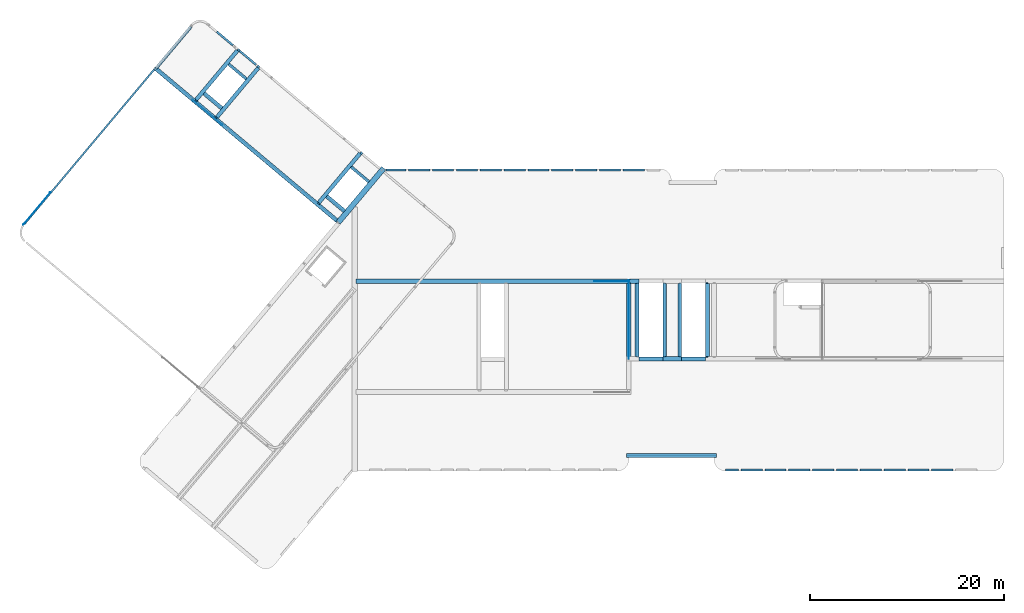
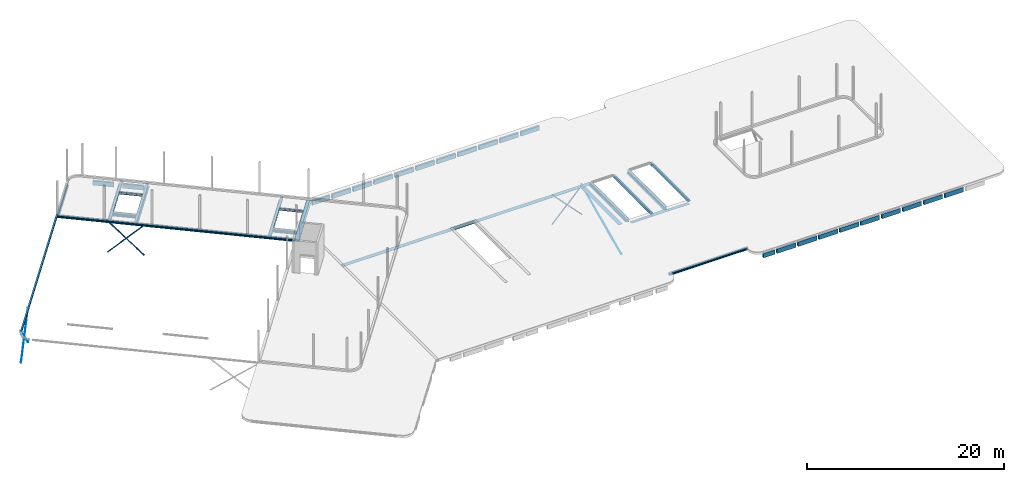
# One storey, part 7 of 11: 66 beams.
"""IFC2X3 building model written with IfcOpenShell, lengths in millimetres."""

from ifc_helpers import new_model, entity, si_unit, converted_unit, derived_unit, direction, frame, frame_2d, origin, place, context, subcontext, project, spatial, rectangle, i_section, extrude, material, type_object, element, save


model = new_model("IFC2X3")

# Units and contexts
model_context = context("Model", 3, precision=0.01, world=origin(), true_north=direction((6.123031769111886e-17, 1.0)))
body_context = subcontext(model_context, "Body", "Model", "MODEL_VIEW")
ifc_project = project(units=[si_unit("LENGTHUNIT", "METRE", prefix="MILLI"), si_unit("AREAUNIT", "SQUARE_METRE"), si_unit("VOLUMEUNIT", "CUBIC_METRE"), derived_unit("MASSDENSITYUNIT", [(si_unit("MASSUNIT", "GRAM", prefix="KILO"), 1), (si_unit("LENGTHUNIT", "METRE"), -3)]), si_unit("MASSUNIT", "GRAM", prefix="KILO"), converted_unit("PLANEANGLEUNIT", "DEGREE", entity("IfcPlaneAngleMeasure", 0.017453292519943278), si_unit("PLANEANGLEUNIT", "RADIAN"), dimensions=[0, 0, 0, 0, 0, 0, 0])], contexts=[model_context])

# Site, building, storey
site_placement = place(None, origin())
site = spatial("IfcSite", under=ifc_project, at=site_placement, Name="Default", CompositionType="ELEMENT")
building_placement = place(site_placement, origin())
building = spatial("IfcBuilding", under=site, at=building_placement, Name="AT constructie", CompositionType="ELEMENT")
storey_placement = place(building_placement, frame((0.0, 0.0, 7728.0)))
storey = spatial("IfcBuildingStorey", under=building, at=storey_placement, Name="02 tweede verdieping", CompositionType="ELEMENT", Elevation=7728.0)

# Beams
ifc_material_1 = material(Name="f2_beton_prefab_gen")
beam_type_1 = type_object("IfcBeamType", Name="balk vierkant_gen_214x544 pbl", PredefinedType="NOTDEFINED")
beam_1_placement = place(storey_placement, frame((49381.874631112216, 42871.04350852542, 0.0)))
element("IfcBeam", 1, at=beam_1_placement, inside=storey, type_object=beam_type_1, material=ifc_material_1, Name="NLRS_28_SF_LIB_balk vierkant prefab_gen_AT:balk vierkant_gen_214x544 pbl", ObjectType="NLRS_28_SF_LIB_balk vierkant prefab_gen_AT:balk vierkant_gen_214x544 pbl", context=body_context, shape_type="SweptSolid", body=[
    extrude(rectangle(XDim=544.0000000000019, YDim=213.99999999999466, at=frame_2d((0.0, 4.334310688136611e-12), x_axis=(1.0, 0.0))), frame((-190.0, -107.0, -642.0), z_axis=(1.0, 0.0, 0.0), x_axis=(0.0, 0.0, -1.0)), (0.0, 0.0, 1.0), 2190.0000000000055),
])
beam_2_placement = place(storey_placement, frame((46921.87463111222, 42871.04350852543, 0.0)))
element("IfcBeam", 2, at=beam_2_placement, inside=storey, type_object=beam_type_1, material=ifc_material_1, Name="NLRS_28_SF_LIB_balk vierkant prefab_gen_AT:balk vierkant_gen_214x544 pbl", ObjectType="NLRS_28_SF_LIB_balk vierkant prefab_gen_AT:balk vierkant_gen_214x544 pbl", context=body_context, shape_type="SweptSolid", body=[
    extrude(rectangle(XDim=544.0000000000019, YDim=213.99999999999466, at=frame_2d((0.0, -4.334310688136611e-12), x_axis=(1.0, 0.0))), frame((-190.0, -107.0, -642.0), z_axis=(1.0, 0.0, 0.0), x_axis=(0.0, 0.0, -1.0)), (0.0, 0.0, 1.0), 2190.0000000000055),
])
for number, where in (
    (3, (51841.87463111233, 42871.043508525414, 0.0)),
    (4, (54301.87463111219, 42871.04350852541, 0.0)),
):
    element("IfcBeam", number, at=place(storey_placement, frame(where)), inside=storey, type_object=beam_type_1, material=ifc_material_1, Name="NLRS_28_SF_LIB_balk vierkant prefab_gen_AT:balk vierkant_gen_214x544 pbl", ObjectType="NLRS_28_SF_LIB_balk vierkant prefab_gen_AT:balk vierkant_gen_214x544 pbl", context=body_context, shape_type="SweptSolid", body=[
        extrude(rectangle(XDim=544.0000000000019, YDim=213.99999999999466, at=frame_2d((0.0, 4.334310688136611e-12), x_axis=(1.0, 0.0))), frame((-190.0, -107.0, -642.0), z_axis=(1.0, 0.0, 0.0), x_axis=(0.0, 0.0, -1.0)), (0.0, 0.0, 1.0), 2190.0000000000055),
    ])
beam_3_placement = place(storey_placement, frame((56761.87463111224, 42871.0435085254, 0.0)))
element("IfcBeam", 5, at=beam_3_placement, inside=storey, type_object=beam_type_1, material=ifc_material_1, Name="NLRS_28_SF_LIB_balk vierkant prefab_gen_AT:balk vierkant_gen_214x544 pbl", ObjectType="NLRS_28_SF_LIB_balk vierkant prefab_gen_AT:balk vierkant_gen_214x544 pbl", context=body_context, shape_type="SweptSolid", body=[
    extrude(rectangle(XDim=544.0000000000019, YDim=213.99999999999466, at=frame_2d((0.0, -4.334310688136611e-12), x_axis=(1.0, 0.0))), frame((-190.0, -107.0, -642.0), z_axis=(1.0, 0.0, 0.0), x_axis=(0.0, 0.0, -1.0)), (0.0, 0.0, 1.0), 2190.0000000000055),
])
for number, where in (
    (6, (59221.87463111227, 42871.043508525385, 0.0)),
    (7, (61681.874631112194, 42871.04350852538, 0.0)),
):
    element("IfcBeam", number, at=place(storey_placement, frame(where)), inside=storey, type_object=beam_type_1, material=ifc_material_1, Name="NLRS_28_SF_LIB_balk vierkant prefab_gen_AT:balk vierkant_gen_214x544 pbl", ObjectType="NLRS_28_SF_LIB_balk vierkant prefab_gen_AT:balk vierkant_gen_214x544 pbl", context=body_context, shape_type="SweptSolid", body=[
        extrude(rectangle(XDim=544.0000000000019, YDim=213.99999999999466, at=frame_2d((0.0, 4.334310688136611e-12), x_axis=(1.0, 0.0))), frame((-190.0, -107.0, -642.0), z_axis=(1.0, 0.0, 0.0), x_axis=(0.0, 0.0, -1.0)), (0.0, 0.0, 1.0), 2190.0000000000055),
    ])
beam_4_placement = place(storey_placement, frame((44110.05054228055, 42871.043508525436, 0.0)))
element("IfcBeam", 8, at=beam_4_placement, inside=storey, type_object=beam_type_1, material=ifc_material_1, Name="NLRS_28_SF_LIB_balk vierkant prefab_gen_AT:balk vierkant_gen_214x544 pbl", ObjectType="NLRS_28_SF_LIB_balk vierkant prefab_gen_AT:balk vierkant_gen_214x544 pbl", context=body_context, shape_type="SweptSolid", body=[
    extrude(rectangle(XDim=544.0000000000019, YDim=213.99999999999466, at=frame_2d((0.0, -4.334310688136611e-12), x_axis=(1.0, 0.0))), frame((280.69924574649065, -107.0, -642.0), z_axis=(1.0, 0.0, 0.0), x_axis=(0.0, 0.0, -1.0)), (0.0, 0.0, 1.0), 2071.124843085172),
])
beam_5_placement = place(storey_placement, frame((64141.8746311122, 42871.04350852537, 0.0)))
element("IfcBeam", 9, at=beam_5_placement, inside=storey, type_object=beam_type_1, material=ifc_material_1, Name="NLRS_28_SF_LIB_balk vierkant prefab_gen_AT:balk vierkant_gen_214x544 pbl", ObjectType="NLRS_28_SF_LIB_balk vierkant prefab_gen_AT:balk vierkant_gen_214x544 pbl", context=body_context, shape_type="SweptSolid", body=[
    extrude(rectangle(XDim=544.0000000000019, YDim=213.99999999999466, at=frame_2d((0.0, 4.334310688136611e-12), x_axis=(1.0, 0.0))), frame((-190.0, -107.0, -642.0), z_axis=(1.0, 0.0, 0.0), x_axis=(0.0, 0.0, -1.0)), (0.0, 0.0, 1.0), 2190.0000000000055),
])
beam_6_placement = place(storey_placement, frame((66601.87463111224, 42871.04350852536, 0.0)))
element("IfcBeam", 10, at=beam_6_placement, inside=storey, type_object=beam_type_1, material=ifc_material_1, Name="NLRS_28_SF_LIB_balk vierkant prefab_gen_AT:balk vierkant_gen_214x544 pbl", ObjectType="NLRS_28_SF_LIB_balk vierkant prefab_gen_AT:balk vierkant_gen_214x544 pbl", context=body_context, shape_type="SweptSolid", body=[
    extrude(rectangle(XDim=544.0000000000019, YDim=213.99999999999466, at=frame_2d((0.0, -4.334310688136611e-12), x_axis=(1.0, 0.0))), frame((-190.0, -107.0, -642.0), z_axis=(1.0, 0.0, 0.0), x_axis=(0.0, 0.0, -1.0)), (0.0, 0.0, 1.0), 2190.0000000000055),
])
beam_7_placement = place(storey_placement, frame((69061.87463111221, 42871.043508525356, 0.0)))
element("IfcBeam", 11, at=beam_7_placement, inside=storey, type_object=beam_type_1, material=ifc_material_1, Name="NLRS_28_SF_LIB_balk vierkant prefab_gen_AT:balk vierkant_gen_214x544 pbl", ObjectType="NLRS_28_SF_LIB_balk vierkant prefab_gen_AT:balk vierkant_gen_214x544 pbl", context=body_context, shape_type="SweptSolid", body=[
    extrude(rectangle(XDim=544.0000000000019, YDim=213.99999999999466, at=frame_2d((0.0, 4.334310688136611e-12), x_axis=(1.0, 0.0))), frame((-190.0, -107.0, -642.0), z_axis=(1.0, 0.0, 0.0), x_axis=(0.0, 0.0, -1.0)), (0.0, 0.0, 1.0), 2190.0000000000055),
])
beam_8_placement = place(storey_placement, frame((29514.597322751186, 54981.162075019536, 0.0), z_axis=(0.0, 0.0, 1.0), x_axis=(0.7660444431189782, -0.6427876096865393, 0.0)))
element("IfcBeam", 12, at=beam_8_placement, inside=storey, type_object=beam_type_1, material=ifc_material_1, Name="NLRS_28_SF_LIB_balk vierkant prefab_gen_AT:balk vierkant_gen_214x544 pbl", ObjectType="NLRS_28_SF_LIB_balk vierkant prefab_gen_AT:balk vierkant_gen_214x544 pbl", context=body_context, shape_type="SweptSolid", body=[
    extrude(rectangle(XDim=544.0000000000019, YDim=213.9999999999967, at=frame_2d((0.0, 4.710898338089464e-12), x_axis=(1.0, 0.0))), frame((-190.0, -107.0, -642.0), z_axis=(1.0, 0.0, 0.0), x_axis=(0.0, 0.0, -1.0)), (0.0, 0.0, 1.0), 2190.000000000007),
])
for number, where in (
    (13, (83681.87463111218, 11671.043508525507, 0.0)),
    (14, (81221.87463111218, 11671.043508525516, 0.0)),
    (15, (86141.8746311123, 11671.043508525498, 0.0)),
    (16, (88601.87463111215, 11671.043508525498, 0.0)),
    (17, (91061.8746311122, 11671.043508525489, 0.0)),
    (18, (93521.87463111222, 11671.043508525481, 0.0)),
    (19, (95981.87463111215, 11671.043508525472, 0.0)),
    (20, (98441.87463111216, 11671.043508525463, 0.0)),
    (21, (100901.8746311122, 11671.043508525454, 0.0)),
):
    element("IfcBeam", number, at=place(storey_placement, frame(where)), inside=storey, type_object=beam_type_1, material=ifc_material_1, Name="NLRS_28_SF_LIB_balk vierkant prefab_gen_AT:balk vierkant_gen_214x544 pbl", ObjectType="NLRS_28_SF_LIB_balk vierkant prefab_gen_AT:balk vierkant_gen_214x544 pbl", context=body_context, shape_type="SweptSolid", body=[
        extrude(rectangle(XDim=544.0000000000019, YDim=213.999999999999, at=frame_2d((0.0, -1.0871303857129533e-12), x_axis=(1.0, 0.0))), frame((-190.0, 107.0, -642.0), z_axis=(1.0, 0.0, 0.0), x_axis=(0.0, 0.0, -1.0)), (0.0, 0.0, 1.0), 2190.000000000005),
    ])
beam_9_placement = place(storey_placement, frame((79641.87463111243, 11671.043508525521, 0.0)))
element("IfcBeam", 22, at=beam_9_placement, inside=storey, type_object=beam_type_1, material=ifc_material_1, Name="NLRS_28_SF_LIB_balk vierkant prefab_gen_AT:balk vierkant_gen_214x544 pbl", ObjectType="NLRS_28_SF_LIB_balk vierkant prefab_gen_AT:balk vierkant_gen_214x544 pbl", context=body_context, shape_type="SweptSolid", body=[
    extrude(rectangle(XDim=544.0000000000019, YDim=213.999999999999, at=frame_2d((0.0, -1.0871303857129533e-12), x_axis=(1.0, 0.0))), frame((-190.0, 107.0, -642.0), z_axis=(1.0, 0.0, 0.0), x_axis=(0.0, 0.0, -1.0)), (0.0, 0.0, 1.0), 1309.9999999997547),
])
beam_10_placement = place(storey_placement, frame((27139.859549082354, 56973.80366504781, 0.0), z_axis=(0.0, 0.0, 1.0), x_axis=(0.7660444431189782, -0.6427876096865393, 0.0)))
element("IfcBeam", 23, at=beam_10_placement, inside=storey, type_object=beam_type_1, material=ifc_material_1, Name="NLRS_28_SF_LIB_balk vierkant prefab_gen_AT:balk vierkant_gen_214x544 pbl", ObjectType="NLRS_28_SF_LIB_balk vierkant prefab_gen_AT:balk vierkant_gen_214x544 pbl", context=body_context, shape_type="SweptSolid", body=[
    extrude(rectangle(XDim=544.0000000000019, YDim=213.9999999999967, at=frame_2d((0.0, -4.710898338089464e-12), x_axis=(1.0, 0.0))), frame((-190.0, -107.0, -642.0), z_axis=(1.0, 0.0, 0.0), x_axis=(0.0, 0.0, -1.0)), (0.0, 0.0, 1.0), 2190.000000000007),
])
ifc_material_2 = material(Name="h2_staal_S355")
beam_type_2 = type_object("IfcBeamType", Name="balk strip liggend_gen_500x15", PredefinedType="NOTDEFINED")
beam_11_placement = place(storey_placement, frame((69446.87463111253, 31021.043508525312, 0.0), z_axis=(0.0, 0.0, 1.0), x_axis=(0.0, -1.0, 0.0)))
element("IfcBeam", 24, at=beam_11_placement, inside=storey, type_object=beam_type_2, material=ifc_material_2, Name="NLRS_28_SF_LIB_balk strip_gen_AT:balk strip liggend_gen_500x15", ObjectType="NLRS_28_SF_LIB_balk strip_gen_AT:balk strip liggend_gen_500x15", context=body_context, shape_type="SweptSolid", body=[
    extrude(rectangle(XDim=14.99999999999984, YDim=499.999999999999, at=frame_2d((5.413447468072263e-13, 4.334310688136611e-12), x_axis=(1.0, 0.0))), frame((0.0, 0.0, -377.5000000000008), z_axis=(1.0, 0.0, 0.0), x_axis=(0.0, 0.0, -1.0)), (0.0, 0.0, 1.0), 7599.999999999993),
])
beam_12_placement = place(storey_placement, frame((41296.874631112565, 31271.043508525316, 0.0)))
element("IfcBeam", 25, at=beam_12_placement, inside=storey, type_object=beam_type_2, material=ifc_material_2, Name="NLRS_28_SF_LIB_balk strip_gen_AT:balk strip liggend_gen_500x15", ObjectType="NLRS_28_SF_LIB_balk strip_gen_AT:balk strip liggend_gen_500x15", context=body_context, shape_type="SweptSolid", body=[
    extrude(rectangle(XDim=14.99999999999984, YDim=499.999999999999, at=frame_2d((5.413447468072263e-13, 4.334310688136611e-12), x_axis=(1.0, 0.0))), frame((0.0, 0.0, -377.5000000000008), z_axis=(1.0, 0.0, 0.0), x_axis=(0.0, 0.0, -1.0)), (0.0, 0.0, 1.0), 28299.99999999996),
])
beam_13_placement = place(storey_placement, frame((69596.87463111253, 31271.043508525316, 0.0)))
element("IfcBeam", 26, at=beam_13_placement, inside=storey, type_object=beam_type_2, material=ifc_material_2, Name="NLRS_28_SF_LIB_balk strip_gen_AT:balk strip liggend_gen_500x15", ObjectType="NLRS_28_SF_LIB_balk strip_gen_AT:balk strip liggend_gen_500x15", context=body_context, shape_type="SweptSolid", body=[
    extrude(rectangle(XDim=14.99999999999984, YDim=499.999999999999, at=frame_2d((5.413447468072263e-13, 4.334310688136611e-12), x_axis=(1.0, 0.0))), frame((0.0, 0.0, -377.5000000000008), z_axis=(1.0, 0.0, 0.0), x_axis=(0.0, 0.0, -1.0)), (0.0, 0.0, 1.0), 905.0000000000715),
])
beam_14_placement = place(storey_placement, frame((72951.87463111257, 23271.04350852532, 0.0)))
element("IfcBeam", 27, at=beam_14_placement, inside=storey, type_object=beam_type_2, material=ifc_material_2, Name="NLRS_28_SF_LIB_balk strip_gen_AT:balk strip liggend_gen_500x15", ObjectType="NLRS_28_SF_LIB_balk strip_gen_AT:balk strip liggend_gen_500x15", context=body_context, shape_type="SweptSolid", body=[
    extrude(rectangle(XDim=14.99999999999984, YDim=499.999999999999, at=frame_2d((5.413447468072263e-13, 0.0), x_axis=(1.0, 0.0))), frame((0.0, 0.0, -377.5000000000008), z_axis=(1.0, 0.0, 0.0), x_axis=(0.0, 0.0, -1.0)), (0.0, 0.0, 1.0), 1949.9999993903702),
])
beam_type_3 = type_object("IfcBeamType", Name="balk HE_gen_HEB260", PredefinedType="NOTDEFINED")
beam_15_placement = place(storey_placement, frame((69220.37462610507, 13201.043508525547, 0.0)))
element("IfcBeam", 28, at=beam_15_placement, inside=storey, type_object=beam_type_3, material=ifc_material_2, Name="NLRS_28_SF_LIB_balk HEB_gen_AT:balk HE_gen_HEB260", ObjectType="NLRS_28_SF_LIB_balk HEB_gen_AT:balk HE_gen_HEB260", context=body_context, shape_type="SweptSolid", body=[
    extrude(i_section(OverallWidth=259.9999999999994, OverallDepth=260.00000000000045, WebThickness=9.999999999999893, FlangeThickness=17.50000000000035, FilletRadius=24.000000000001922, at=frame_2d((5.400124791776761e-13, 1.0800249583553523e-12), x_axis=(0.0, 1.0))), frame((0.0, 0.0, -240.0), z_axis=(1.0, 0.0, 0.0), x_axis=(0.0, 0.0, -1.0)), (0.0, 0.0, 1.0), 9253.000006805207),
])
for number, where, z_axis, x_axis in (
    (29, (77481.87463111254, 31141.043508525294, 0.0), (0.0, 0.0, 1.0), (0.0, -1.0, 0.0)),
    (30, (73081.87463111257, 31141.04350852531, 0.0), (0.0, 0.0, 1.0), (0.0, -1.0, 0.0)),
    (31, (74771.87463111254, 31141.043508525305, 0.0), (0.0, 0.0, 1.0), (0.0, -1.0, 0.0)),
    (32, (70371.87463111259, 31141.043508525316, 0.0), (0.0, 0.0, 1.0), (0.0, -1.0, 0.0)),
):
    element("IfcBeam", number, at=place(storey_placement, frame(where, z_axis=z_axis, x_axis=x_axis)), inside=storey, type_object=beam_type_3, material=ifc_material_2, Name="NLRS_28_SF_LIB_balk HEB_gen_AT:balk HE_gen_HEB260", ObjectType="NLRS_28_SF_LIB_balk HEB_gen_AT:balk HE_gen_HEB260", context=body_context, shape_type="SweptSolid", body=[
        extrude(i_section(OverallWidth=259.9999999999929, OverallDepth=260.00000000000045, WebThickness=9.999999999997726, FlangeThickness=17.50000000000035, FilletRadius=24.0, at=frame_2d((5.400124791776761e-13, 8.65441052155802e-12), x_axis=(0.0, 1.0))), frame((0.0, 0.0, -240.0), z_axis=(1.0, 0.0, 0.0), x_axis=(0.0, 0.0, -1.0)), (0.0, 0.0, 1.0), 7739.999999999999),
    ])
beam_16_placement = place(storey_placement, frame((20474.44183367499, 53265.72627519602, 0.0), z_axis=(0.0, 0.0, 1.0), x_axis=(0.7660444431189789, -0.6427876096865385, 0.0)))
element("IfcBeam", 33, at=beam_16_placement, inside=storey, type_object=beam_type_3, material=ifc_material_2, Name="NLRS_28_SF_LIB_balk HEB_gen_AT:balk HE_gen_HEB260", ObjectType="NLRS_28_SF_LIB_balk HEB_gen_AT:balk HE_gen_HEB260", context=body_context, shape_type="SweptSolid", body=[
    extrude(i_section(OverallWidth=259.9999999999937, OverallDepth=260.00000000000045, WebThickness=10.000000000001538, FlangeThickness=17.50000000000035, FilletRadius=24.0, at=frame_2d((5.400124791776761e-13, 0.0), x_axis=(0.0, 1.0))), frame((0.0, 0.0, -240.0), z_axis=(1.0, 0.0, 0.0), x_axis=(0.0, 0.0, -1.0)), (0.0, 0.0, 1.0), 24637.499999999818),
])
beam_17_placement = place(storey_placement, frame((29353.72812201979, 55116.14736202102, 0.0), z_axis=(0.0, 0.0, 1.0), x_axis=(-0.6427876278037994, -0.7660444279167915, 0.0)))
element("IfcBeam", 34, at=beam_17_placement, inside=storey, type_object=beam_type_3, material=ifc_material_2, Name="NLRS_28_SF_LIB_balk HEB_gen_AT:balk HE_gen_HEB260", ObjectType="NLRS_28_SF_LIB_balk HEB_gen_AT:balk HE_gen_HEB260", context=body_context, shape_type="SweptSolid", body=[
    extrude(i_section(OverallWidth=260.00000000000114, OverallDepth=260.00000000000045, WebThickness=9.999999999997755, FlangeThickness=17.50000000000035, FilletRadius=24.0, at=frame_2d((5.400124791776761e-13, 7.773337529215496e-12), x_axis=(0.0, 1.0))), frame((0.0, -130.0, -240.0), z_axis=(1.0, 0.0, 0.0), x_axis=(0.0, 0.0, -1.0)), (0.0, 0.0, 1.0), 6975.000000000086),
])
beam_18_placement = place(storey_placement, frame((31192.23475400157, 53573.457125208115, 0.0), z_axis=(0.0, 0.0, 1.0), x_axis=(-0.6427876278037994, -0.7660444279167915, 0.0)))
element("IfcBeam", 35, at=beam_18_placement, inside=storey, type_object=beam_type_3, material=ifc_material_2, Name="NLRS_28_SF_LIB_balk HEB_gen_AT:balk HE_gen_HEB260", ObjectType="NLRS_28_SF_LIB_balk HEB_gen_AT:balk HE_gen_HEB260", context=body_context, shape_type="SweptSolid", body=[
    extrude(i_section(OverallWidth=260.00000000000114, OverallDepth=260.00000000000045, WebThickness=9.999999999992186, FlangeThickness=17.50000000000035, FilletRadius=24.0, at=frame_2d((5.400124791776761e-13, 1.3869794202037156e-11), x_axis=(0.0, 1.0))), frame((0.0, 130.0, -240.0), z_axis=(1.0, 0.0, 0.0), x_axis=(0.0, 0.0, -1.0)), (0.0, 0.0, 1.0), 6975.000000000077),
])
beam_19_placement = place(storey_placement, frame((25738.04773364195, 50807.14734400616, 0.0), z_axis=(0.0, 0.0, 1.0), x_axis=(0.766044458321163, -0.6427875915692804, 0.0)))
element("IfcBeam", 36, at=beam_19_placement, inside=storey, type_object=beam_type_3, material=ifc_material_2, Name="NLRS_28_SF_LIB_balk HEB_gen_AT:balk HE_gen_HEB260", ObjectType="NLRS_28_SF_LIB_balk HEB_gen_AT:balk HE_gen_HEB260", context=body_context, shape_type="SweptSolid", body=[
    extrude(i_section(OverallWidth=259.9999999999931, OverallDepth=260.00000000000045, WebThickness=10.000000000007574, FlangeThickness=17.50000000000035, FilletRadius=24.0, at=frame_2d((-9.421796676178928e-12, 1.6200374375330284e-12), x_axis=(1.0, 0.0))), frame((0.0, -130.0, -240.0), z_axis=(1.0, 0.0, 0.0), x_axis=(0.0, -1.0, 0.0)), (0.0, 0.0, 1.0), 2399.999958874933),
])
beam_20_placement = place(storey_placement, frame((42012.612227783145, 44494.08186757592, 0.0), z_axis=(0.0, 0.0, 1.0), x_axis=(-0.6427876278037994, -0.7660444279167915, 0.0)))
element("IfcBeam", 37, at=beam_20_placement, inside=storey, type_object=beam_type_3, material=ifc_material_2, Name="NLRS_28_SF_LIB_balk HEB_gen_AT:balk HE_gen_HEB260", ObjectType="NLRS_28_SF_LIB_balk HEB_gen_AT:balk HE_gen_HEB260", context=body_context, shape_type="SweptSolid", body=[
    extrude(i_section(OverallWidth=259.9999999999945, OverallDepth=260.00000000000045, WebThickness=10.000000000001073, FlangeThickness=17.50000000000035, FilletRadius=24.0, at=frame_2d((5.400124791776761e-13, -3.325340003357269e-12), x_axis=(0.0, 1.0))), frame((0.0, -130.0, -240.0), z_axis=(1.0, 0.0, 0.0), x_axis=(0.0, 0.0, -1.0)), (0.0, 0.0, 1.0), 6975.000000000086),
])
beam_21_placement = place(storey_placement, frame((38393.101682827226, 40188.29573268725, 0.0), z_axis=(0.0, 0.0, 1.0), x_axis=(0.766044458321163, -0.6427875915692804, 0.0)))
element("IfcBeam", 38, at=beam_21_placement, inside=storey, type_object=beam_type_3, material=ifc_material_2, Name="NLRS_28_SF_LIB_balk HEB_gen_AT:balk HE_gen_HEB260", ObjectType="NLRS_28_SF_LIB_balk HEB_gen_AT:balk HE_gen_HEB260", context=body_context, shape_type="SweptSolid", body=[
    extrude(i_section(OverallWidth=259.9999999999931, OverallDepth=260.00000000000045, WebThickness=10.000000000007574, FlangeThickness=17.50000000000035, FilletRadius=24.0, at=frame_2d((2.7853275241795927e-12, 1.6200374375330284e-12), x_axis=(1.0, 0.0))), frame((0.0, -130.0, -240.0), z_axis=(1.0, 0.0, 0.0), x_axis=(0.0, -1.0, 0.0)), (0.0, 0.0, 1.0), 2399.999958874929),
])
beam_type_4 = type_object("IfcBeamType", Name="balk strip liggend_gen_420x15", PredefinedType="NOTDEFINED")
beam_22_placement = place(storey_placement, frame((20513.009090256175, 53311.688941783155, 0.0), z_axis=(0.0, 0.0, 1.0), x_axis=(0.7660444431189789, -0.6427876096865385, 0.0)))
element("IfcBeam", 39, at=beam_22_placement, inside=storey, type_object=beam_type_4, material=ifc_material_2, Name="NLRS_28_SF_LIB_balk strip_gen_AT:balk strip liggend_gen_420x15", ObjectType="NLRS_28_SF_LIB_balk strip_gen_AT:balk strip liggend_gen_420x15", context=body_context, shape_type="SweptSolid", body=[
    extrude(rectangle(XDim=14.99999999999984, YDim=420.00000000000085, at=frame_2d((-5.413447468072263e-13, 0.0), x_axis=(1.0, 0.0))), frame((0.0, 0.0, -377.5000000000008), z_axis=(1.0, 0.0, 0.0), x_axis=(0.0, 0.0, 1.0)), (0.0, 0.0, 1.0), 24517.499999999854),
])
beam_type_5 = type_object("IfcBeamType", Name="balk strip liggend_gen_400x15", PredefinedType="NOTDEFINED")
beam_23_placement = place(storey_placement, frame((69220.37462109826, 13271.043508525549, 0.0)))
element("IfcBeam", 40, at=beam_23_placement, inside=storey, type_object=beam_type_5, material=ifc_material_2, Name="NLRS_28_SF_LIB_balk strip_gen_AT:balk strip liggend_gen_400x15", ObjectType="NLRS_28_SF_LIB_balk strip_gen_AT:balk strip liggend_gen_400x15", context=body_context, shape_type="SweptSolid", body=[
    extrude(rectangle(XDim=14.99999999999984, YDim=400.0, at=frame_2d((5.413447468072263e-13, 0.0), x_axis=(1.0, 0.0))), frame((0.0, 0.0, -377.5000000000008), z_axis=(1.0, 0.0, 0.0), x_axis=(0.0, 0.0, -1.0)), (0.0, 0.0, 1.0), 9253.000011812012),
])
for number, where, z_axis, x_axis in (
    (41, (77551.87463111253, 31021.043508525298, 0.0), (0.0, 0.0, 1.0), (0.0, -1.0, 0.0)),
    (42, (73151.87463111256, 31021.04350852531, 0.0), (0.0, 0.0, 1.0), (0.0, -1.0, 0.0)),
):
    element("IfcBeam", number, at=place(storey_placement, frame(where, z_axis=z_axis, x_axis=x_axis)), inside=storey, type_object=beam_type_5, material=ifc_material_2, Name="NLRS_28_SF_LIB_balk strip_gen_AT:balk strip liggend_gen_400x15", ObjectType="NLRS_28_SF_LIB_balk strip_gen_AT:balk strip liggend_gen_400x15", context=body_context, shape_type="SweptSolid", body=[
        extrude(rectangle(XDim=14.99999999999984, YDim=400.0000000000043, at=frame_2d((5.413447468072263e-13, -4.334310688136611e-12), x_axis=(1.0, 0.0))), frame((0.0, 0.0, -377.5000000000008), z_axis=(1.0, 0.0, 0.0), x_axis=(0.0, 0.0, -1.0)), (0.0, 0.0, 1.0), 7499.999999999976),
    ])
for number, where, z_axis, x_axis in (
    (43, (74701.87463111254, 31021.043508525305, 0.0), (0.0, 0.0, 1.0), (0.0, -1.0, 0.0)),
    (44, (70301.87463111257, 31021.04350852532, 0.0), (0.0, 0.0, 1.0), (0.0, -1.0, 0.0)),
):
    element("IfcBeam", number, at=place(storey_placement, frame(where, z_axis=z_axis, x_axis=x_axis)), inside=storey, type_object=beam_type_5, material=ifc_material_2, Name="NLRS_28_SF_LIB_balk strip_gen_AT:balk strip liggend_gen_400x15", ObjectType="NLRS_28_SF_LIB_balk strip_gen_AT:balk strip liggend_gen_400x15", context=body_context, shape_type="SweptSolid", body=[
        extrude(rectangle(XDim=14.99999999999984, YDim=400.0000000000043, at=frame_2d((5.413447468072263e-13, -1.3002932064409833e-11), x_axis=(1.0, 0.0))), frame((0.0, 0.0, -377.5000000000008), z_axis=(1.0, 0.0, 0.0), x_axis=(0.0, 0.0, -1.0)), (0.0, 0.0, 1.0), 7499.999999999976),
    ])
beam_24_placement = place(storey_placement, frame((29131.740957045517, 55162.738130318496, 0.0), z_axis=(0.0, 0.0, 1.0), x_axis=(-0.6427876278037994, -0.7660444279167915, 0.0)))
element("IfcBeam", 45, at=beam_24_placement, inside=storey, type_object=beam_type_5, material=ifc_material_2, Name="NLRS_28_SF_LIB_balk strip_gen_AT:balk strip liggend_gen_400x15", ObjectType="NLRS_28_SF_LIB_balk strip_gen_AT:balk strip liggend_gen_400x15", context=body_context, shape_type="SweptSolid", body=[
    extrude(rectangle(XDim=14.99999999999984, YDim=400.0000000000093, at=frame_2d((5.413447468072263e-13, -4.447997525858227e-12), x_axis=(1.0, 0.0))), frame((107.00000473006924, 0.0, -377.5000000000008), z_axis=(1.0, 0.0, 0.0), x_axis=(0.0, 0.0, -1.0)), (0.0, 0.0, 1.0), 6640.999995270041),
])
beam_25_placement = place(storey_placement, frame((31123.456477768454, 53491.490371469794, 0.0), z_axis=(0.0, 0.0, 1.0), x_axis=(-0.6427876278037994, -0.7660444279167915, 0.0)))
element("IfcBeam", 46, at=beam_25_placement, inside=storey, type_object=beam_type_5, material=ifc_material_2, Name="NLRS_28_SF_LIB_balk strip_gen_AT:balk strip liggend_gen_400x15", ObjectType="NLRS_28_SF_LIB_balk strip_gen_AT:balk strip liggend_gen_400x15", context=body_context, shape_type="SweptSolid", body=[
    extrude(rectangle(XDim=14.99999999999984, YDim=400.000000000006, at=frame_2d((5.413447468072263e-13, -6.110667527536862e-12), x_axis=(1.0, 0.0))), frame((107.0000047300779, 200.0, -377.5000000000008), z_axis=(1.0, 0.0, 0.0), x_axis=(0.0, 0.0, -1.0)), (0.0, 0.0, 1.0), 6640.999995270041),
])
beam_26_placement = place(storey_placement, frame((25738.047668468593, 50807.14739879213, 0.0), z_axis=(0.0, 0.0, 1.0), x_axis=(0.766044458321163, -0.6427875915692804, 0.0)))
element("IfcBeam", 47, at=beam_26_placement, inside=storey, type_object=beam_type_5, material=ifc_material_2, Name="NLRS_28_SF_LIB_balk strip_gen_AT:balk strip liggend_gen_400x15", ObjectType="NLRS_28_SF_LIB_balk strip_gen_AT:balk strip liggend_gen_400x15", context=body_context, shape_type="SweptSolid", body=[
    extrude(rectangle(XDim=14.99999999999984, YDim=399.99999999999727, at=frame_2d((5.413447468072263e-13, 0.0), x_axis=(1.0, 0.0))), frame((6.096022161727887e-07, -200.0, -377.5000000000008), z_axis=(1.0, 0.0, 0.0), x_axis=(0.0, 0.0, -1.0)), (0.0, 0.0, 1.0), 2400.000043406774),
])
beam_27_placement = place(storey_placement, frame((41790.62531402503, 44540.67293526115, 0.0), z_axis=(0.0, 0.0, 1.0), x_axis=(-0.6427876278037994, -0.7660444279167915, 0.0)))
element("IfcBeam", 48, at=beam_27_placement, inside=storey, type_object=beam_type_5, material=ifc_material_2, Name="NLRS_28_SF_LIB_balk strip_gen_AT:balk strip liggend_gen_400x15", ObjectType="NLRS_28_SF_LIB_balk strip_gen_AT:balk strip liggend_gen_400x15", context=body_context, shape_type="SweptSolid", body=[
    extrude(rectangle(XDim=14.999999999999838, YDim=400.00000000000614, at=frame_2d((5.413447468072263e-13, -6.0822458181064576e-12), x_axis=(1.0, 0.0))), frame((107.00000473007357, 0.0, -377.5000000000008), z_axis=(1.0, 0.0, 0.0), x_axis=(0.0, 0.0, -1.0)), (0.0, 0.0, 1.0), 6641.000386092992),
])
beam_28_placement = place(storey_placement, frame((38396.93177438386, 40185.08190452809, 0.0), z_axis=(0.0, 0.0, 1.0), x_axis=(0.766044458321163, -0.6427875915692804, 0.0)))
element("IfcBeam", 49, at=beam_28_placement, inside=storey, type_object=beam_type_5, material=ifc_material_2, Name="NLRS_28_SF_LIB_balk strip_gen_AT:balk strip liggend_gen_400x15", ObjectType="NLRS_28_SF_LIB_balk strip_gen_AT:balk strip liggend_gen_400x15", context=body_context, shape_type="SweptSolid", body=[
    extrude(rectangle(XDim=14.99999999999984, YDim=399.99999999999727, at=frame_2d((5.413447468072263e-13, -9.450218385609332e-12), x_axis=(1.0, 0.0))), frame((6.095978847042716e-07, -200.0, -377.5000000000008), z_axis=(1.0, 0.0, 0.0), x_axis=(0.0, 0.0, -1.0)), (0.0, 0.0, 1.0), 2395.0001289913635),
])
beam_29_placement = place(storey_placement, frame((70501.87463111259, 23221.043508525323, 0.0)))
element("IfcBeam", 50, at=beam_29_placement, inside=storey, type_object=beam_type_5, material=ifc_material_2, Name="NLRS_28_SF_LIB_balk strip_gen_AT:balk strip liggend_gen_400x15", ObjectType="NLRS_28_SF_LIB_balk strip_gen_AT:balk strip liggend_gen_400x15", context=body_context, shape_type="SweptSolid", body=[
    extrude(rectangle(XDim=14.99999999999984, YDim=400.0, at=frame_2d((5.413447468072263e-13, -2.1742607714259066e-12), x_axis=(1.0, 0.0))), frame((0.0, 0.0, -377.5000000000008), z_axis=(1.0, 0.0, 0.0), x_axis=(0.0, 0.0, -1.0)), (0.0, 0.0, 1.0), 2449.999999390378),
])
beam_30_placement = place(storey_placement, frame((74901.87463111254, 23221.043508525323, 0.0)))
element("IfcBeam", 51, at=beam_30_placement, inside=storey, type_object=beam_type_5, material=ifc_material_2, Name="NLRS_28_SF_LIB_balk strip_gen_AT:balk strip liggend_gen_400x15", ObjectType="NLRS_28_SF_LIB_balk strip_gen_AT:balk strip liggend_gen_400x15", context=body_context, shape_type="SweptSolid", body=[
    extrude(rectangle(XDim=14.99999999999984, YDim=400.0, at=frame_2d((5.413447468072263e-13, -2.1742607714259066e-12), x_axis=(1.0, 0.0))), frame((0.0, 0.0, -377.5000000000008), z_axis=(1.0, 0.0, 0.0), x_axis=(0.0, 0.0, -1.0)), (0.0, 0.0, 1.0), 2449.9999993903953),
])
beam_type_6 = type_object("IfcBeamType", Name="balk strip liggend_gen_560x20", PredefinedType="NOTDEFINED")
beam_31_placement = place(storey_placement, frame((39462.76846748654, 37332.62840009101, 0.0), z_axis=(0.0, 0.0, 1.0), x_axis=(0.642787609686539, 0.7660444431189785, 0.0)))
element("IfcBeam", 52, at=beam_31_placement, inside=storey, type_object=beam_type_6, material=ifc_material_2, Name="NLRS_28_SF_LIB_balk strip_gen_AT:balk strip liggend_gen_560x20", ObjectType="NLRS_28_SF_LIB_balk strip_gen_AT:balk strip liggend_gen_560x20", context=body_context, shape_type="SweptSolid", body=[
    extrude(rectangle(XDim=19.999999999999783, YDim=560.0000000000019, at=frame_2d((0.0, 9.43600753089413e-12), x_axis=(1.0, 0.0))), frame((0.0, 0.0, -380.0), z_axis=(1.0, 0.0, 0.0), x_axis=(0.0, 0.0, -1.0)), (0.0, 0.0, 1.0), 7297.572021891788),
])
beam_type_7 = type_object("IfcBeamType", Name="balk strip liggend_gen_300x15", PredefinedType="NOTDEFINED")
beam_32_placement = place(storey_placement, frame((28052.08321702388, 53564.90744471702, 0.0), z_axis=(0.0, 0.0, 1.0), x_axis=(0.766044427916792, -0.6427876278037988, 0.0)))
element("IfcBeam", 53, at=beam_32_placement, inside=storey, type_object=beam_type_7, material=ifc_material_2, Name="NLRS_28_SF_LIB_balk strip_gen_AT:balk strip liggend_gen_300x15", ObjectType="NLRS_28_SF_LIB_balk strip_gen_AT:balk strip liggend_gen_300x15", context=body_context, shape_type="SweptSolid", body=[
    extrude(rectangle(XDim=14.99999999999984, YDim=299.99999999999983, at=frame_2d((5.413447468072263e-13, -6.110667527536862e-12), x_axis=(1.0, 0.0))), frame((6.095935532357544e-07, 150.0, -377.5000000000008), z_axis=(1.0, 0.0, 0.0), x_axis=(0.0, 0.0, -1.0)), (0.0, 0.0, 1.0), 2399.999958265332),
])
beam_33_placement = place(storey_placement, frame((40710.967322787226, 42942.84195027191, 0.0), z_axis=(0.0, 0.0, 1.0), x_axis=(0.766044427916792, -0.6427876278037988, 0.0)))
element("IfcBeam", 54, at=beam_33_placement, inside=storey, type_object=beam_type_7, material=ifc_material_2, Name="NLRS_28_SF_LIB_balk strip_gen_AT:balk strip liggend_gen_300x15", ObjectType="NLRS_28_SF_LIB_balk strip_gen_AT:balk strip liggend_gen_300x15", context=body_context, shape_type="SweptSolid", body=[
    extrude(rectangle(XDim=14.999999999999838, YDim=300.0000000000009, at=frame_2d((5.413447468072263e-13, -9.407585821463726e-12), x_axis=(1.0, 0.0))), frame((6.096022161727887e-07, 150.0, -377.5000000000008), z_axis=(1.0, 0.0, 0.0), x_axis=(0.0, 0.0, -1.0)), (0.0, 0.0, 1.0), 2375.0000438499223),
])
beam_34_placement = place(storey_placement, frame((20637.49130575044, 53207.23596067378, 0.0), z_axis=(0.0, 0.0, 1.0), x_axis=(0.6427876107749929, 0.7660444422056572, 0.0)))
element("IfcBeam", 55, at=beam_34_placement, inside=storey, type_object=beam_type_7, material=ifc_material_2, Name="NLRS_28_SF_LIB_balk strip_gen_AT:balk strip liggend_gen_300x15", ObjectType="NLRS_28_SF_LIB_balk strip_gen_AT:balk strip liggend_gen_300x15", context=body_context, shape_type="SweptSolid", body=[
    extrude(rectangle(XDim=14.999999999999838, YDim=300.00000000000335, at=frame_2d((5.413447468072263e-13, -1.6626700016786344e-12), x_axis=(1.0, 0.0))), frame((6.095935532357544e-07, 0.0, -377.5000000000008), z_axis=(1.0, 0.0, 0.0), x_axis=(0.0, 0.0, -1.0)), (0.0, 0.0, 1.0), 5663.254362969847),
])
beam_type_8 = type_object("IfcBeamType", Name="balk HE_gen_HEA180", PredefinedType="NOTDEFINED")
beam_35_placement = place(storey_placement, frame((7008.041410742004, 37217.09519185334, 0.0), z_axis=(0.0, 0.0, 1.0), x_axis=(0.6427876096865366, 0.7660444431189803, 0.0)))
element("IfcBeam", 56, at=beam_35_placement, inside=storey, type_object=beam_type_8, material=ifc_material_2, Name="NLRS_28_SF_LIB_balk HEA_gen_AT:balk HE_gen_HEA180", ObjectType="NLRS_28_SF_LIB_balk HEA_gen_AT:balk HE_gen_HEA180", context=body_context, shape_type="SweptSolid", body=[
    extrude(i_section(OverallWidth=180.00000000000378, OverallDepth=171.0000000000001, WebThickness=5.999999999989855, FlangeThickness=9.500000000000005, FilletRadius=15.00000000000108, at=frame_2d((0.0, -5.6843418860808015e-12), x_axis=(0.0, 1.0))), frame((0.0, -90.0, -85.50000000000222), z_axis=(1.0, 0.0, 0.0), x_axis=(0.0, 0.0, -1.0)), (0.0, 0.0, 1.0), 20800.000000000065),
])
beam_36_placement = place(storey_placement, frame((20649.379530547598, 53314.747211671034, 0.0), z_axis=(0.0, 0.0, 1.0), x_axis=(0.6427876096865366, 0.7660444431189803, 0.0)))
element("IfcBeam", 57, at=beam_36_placement, inside=storey, type_object=beam_type_8, material=ifc_material_2, Name="NLRS_28_SF_LIB_balk HEA_gen_AT:balk HE_gen_HEA180", ObjectType="NLRS_28_SF_LIB_balk HEA_gen_AT:balk HE_gen_HEA180", context=body_context, shape_type="SweptSolid", body=[
    extrude(i_section(OverallWidth=179.99999999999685, OverallDepth=171.0000000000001, WebThickness=5.9999999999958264, FlangeThickness=9.500000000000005, FilletRadius=15.000000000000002, at=frame_2d((-1.0800249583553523e-12, -3.311129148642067e-12), x_axis=(0.0, 1.0))), frame((0.0, 0.0, -284.49999999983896), z_axis=(1.0, 0.0, 0.0), x_axis=(0.0, 0.0, -1.0)), (0.0, 0.0, 1.0), 5573.254363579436),
])
beam_type_9 = type_object("IfcBeamType", Name="balk strip liggend_gen_120x10", PredefinedType="NOTDEFINED")
beam_37_placement = place(storey_placement, frame((65946.87463111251, 31281.04350854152, -240.0), z_axis=(0.7240441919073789, 0.0, 0.689753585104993), x_axis=(0.689753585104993, 0.0, -0.7240441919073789)))
element("IfcBeam", 58, at=beam_37_placement, inside=storey, type_object=beam_type_9, material=ifc_material_2, Name="NLRS_28_SF_LIB_balk strip_gen_AT:balk strip liggend_gen_120x10", ObjectType="NLRS_28_SF_LIB_balk strip_gen_AT:balk strip liggend_gen_120x10", context=body_context, shape_type="SweptSolid", body=[
    extrude(rectangle(XDim=120.00000000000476, YDim=10.000000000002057, at=frame_2d((0.0, -4.331646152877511e-12), x_axis=(1.0, 0.0))), frame((0.0, -5.0, 0.0), z_axis=(1.0, 0.0, 0.0), x_axis=(0.0, 0.0, -1.0)), (0.0, 0.0, 1.0), 5074.275908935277),
])
beam_38_placement = place(storey_placement, frame((69446.87463111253, 31281.04350852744, -240.0), z_axis=(0.7240441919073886, 0.0, -0.689753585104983), x_axis=(-0.689753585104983, 0.0, -0.7240441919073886)))
element("IfcBeam", 59, at=beam_38_placement, inside=storey, type_object=beam_type_9, material=ifc_material_2, Name="NLRS_28_SF_LIB_balk strip_gen_AT:balk strip liggend_gen_120x10", ObjectType="NLRS_28_SF_LIB_balk strip_gen_AT:balk strip liggend_gen_120x10", context=body_context, shape_type="SweptSolid", body=[
    extrude(rectangle(XDim=120.00000000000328, YDim=10.000000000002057, at=frame_2d((0.0, -2.1658230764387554e-12), x_axis=(1.0, 0.0))), frame((0.0, -5.0, 0.0), z_axis=(1.0, 0.0, 0.0), x_axis=(0.0, 0.0, -1.0)), (0.0, 0.0, 1.0), 5074.275908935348),
])
beam_39_placement = place(storey_placement, frame((9744.136482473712, 40403.94944149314, -85.50000000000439), z_axis=(-0.4497936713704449, -0.5360432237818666, 0.7143831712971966), x_axis=(-0.4591966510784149, -0.5472492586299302, -0.6997547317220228)))
element("IfcBeam", 60, at=beam_39_placement, inside=storey, type_object=beam_type_9, material=ifc_material_2, Name="NLRS_28_SF_LIB_balk strip_gen_AT:balk strip liggend_gen_120x10", ObjectType="NLRS_28_SF_LIB_balk strip_gen_AT:balk strip liggend_gen_120x10", context=body_context, shape_type="SweptSolid", body=[
    extrude(rectangle(XDim=119.99999999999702, YDim=10.000000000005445, at=frame_2d((2.1316282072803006e-12, 1.660005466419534e-12), x_axis=(1.0, 0.0))), frame((0.0, -5.0, 0.0), z_axis=(1.0, 0.0, 0.0), x_axis=(0.0, 0.0, -1.0)), (0.0, 0.0, 1.0), 5701.2833484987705),
])
beam_40_placement = place(storey_placement, frame((6980.149760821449, 37109.95833608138, -88.75580724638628), z_axis=(0.44948246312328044, 0.5356723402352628, 0.7148570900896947), x_axis=(0.4595012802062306, 0.5476123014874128, -0.6992705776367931)))
element("IfcBeam", 61, at=beam_40_placement, inside=storey, type_object=beam_type_9, material=ifc_material_2, Name="NLRS_28_SF_LIB_balk strip_gen_AT:balk strip liggend_gen_120x10", ObjectType="NLRS_28_SF_LIB_balk strip_gen_AT:balk strip liggend_gen_120x10", context=body_context, shape_type="SweptSolid", body=[
    extrude(rectangle(XDim=119.99999999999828, YDim=9.999999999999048, at=frame_2d((1.6910917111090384e-12, -1.8061108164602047e-12), x_axis=(1.0, 0.0))), frame((0.0, 5.0, 0.0), z_axis=(1.0, 0.0, 0.0), x_axis=(0.0, 0.0, -1.0)), (0.0, 0.0, 1.0), 6015.188293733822),
])
beam_41_placement = place(storey_placement, frame((24429.150413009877, 49942.74689260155, -102.95250573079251), z_axis=(0.8405878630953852, 0.2928925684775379, 0.45565994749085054), x_axis=(0.5416752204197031, -0.45451947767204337, -0.7071067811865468)))
element("IfcBeam", 62, at=beam_41_placement, inside=storey, type_object=beam_type_9, material=ifc_material_2, Name="NLRS_28_SF_LIB_balk strip_gen_AT:balk strip liggend_gen_120x10", ObjectType="NLRS_28_SF_LIB_balk strip_gen_AT:balk strip liggend_gen_120x10", context=body_context, shape_type="SweptSolid", body=[
    extrude(rectangle(XDim=119.99999999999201, YDim=9.999999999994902, at=frame_2d((0.0, 3.872457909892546e-13), x_axis=(0.0, 1.0))), frame((0.0, -3.222002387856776, -3.823440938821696), z_axis=(1.0, 0.0, 0.0), x_axis=(0.0, 0.644400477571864, 0.7646881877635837)), (0.0, 0.0, 1.0), 5545.384139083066),
])
beam_42_placement = place(storey_placement, frame((27459.149472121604, 47400.16131754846, -271.59104816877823), z_axis=(0.8405878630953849, 0.2928925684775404, -0.4556599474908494), x_axis=(-0.5416752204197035, 0.4545194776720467, -0.7071067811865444)))
element("IfcBeam", 63, at=beam_42_placement, inside=storey, type_object=beam_type_9, material=ifc_material_2, Name="NLRS_28_SF_LIB_balk strip_gen_AT:balk strip liggend_gen_120x10", ObjectType="NLRS_28_SF_LIB_balk strip_gen_AT:balk strip liggend_gen_120x10", context=body_context, shape_type="SweptSolid", body=[
    extrude(rectangle(XDim=120.00000000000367, YDim=10.000000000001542, at=frame_2d((1.5560885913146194e-12, -1.3926637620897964e-12), x_axis=(1.0, 0.0))), frame((0.0, -3.222002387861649, -3.823440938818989), z_axis=(1.0, 0.0, 0.0), x_axis=(0.0, -0.7646881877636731, 0.6444004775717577)), (0.0, 0.0, 1.0), 5409.829653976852),
])
beam_43_placement = place(storey_placement, frame((69451.87463111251, 31324.051506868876, -213.04289438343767), z_axis=(0.0, -0.42143049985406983, 0.9068607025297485), x_axis=(0.0, -0.9068607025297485, -0.42143049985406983)))
element("IfcBeam", 64, at=beam_43_placement, inside=storey, type_object=beam_type_9, material=ifc_material_2, Name="NLRS_28_SF_LIB_balk strip_gen_AT:balk strip liggend_gen_120x10", ObjectType="NLRS_28_SF_LIB_balk strip_gen_AT:balk strip liggend_gen_120x10", context=body_context, shape_type="SweptSolid", body=[
    extrude(rectangle(XDim=120.00000000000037, YDim=10.00000000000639, at=frame_2d((1.4743761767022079e-12, -4.331646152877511e-12), x_axis=(1.0, 0.0))), frame((0.0, -5.0, 0.0), z_axis=(1.0, 0.0, 0.0), x_axis=(0.0, 0.0, -1.0)), (0.0, 0.0, 1.0), 8880.093685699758),
])
beam_type_10 = type_object("IfcBeamType", Name="balk HE_gen_HEB180", PredefinedType="NOTDEFINED")
beam_44_placement = place(storey_placement, frame((28052.083217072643, 53564.90744477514, 0.0), z_axis=(0.0, 0.0, 1.0), x_axis=(0.766044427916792, -0.6427876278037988, 0.0)))
element("IfcBeam", 65, at=beam_44_placement, inside=storey, type_object=beam_type_10, material=ifc_material_2, Name="NLRS_28_SF_LIB_balk HEB_gen_AT:balk HE_gen_HEB180", ObjectType="NLRS_28_SF_LIB_balk HEB_gen_AT:balk HE_gen_HEB180", context=body_context, shape_type="SweptSolid", body=[
    extrude(i_section(OverallWidth=180.00000000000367, OverallDepth=179.99999999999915, WebThickness=8.500000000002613, FlangeThickness=14.000000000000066, FilletRadius=15.000000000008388, at=frame_2d((-5.400124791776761e-13, 1.0814460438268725e-11), x_axis=(0.0, 1.0))), frame((0.0, 90.0, -280.0), z_axis=(1.0, 0.0, 0.0), x_axis=(0.0, 0.0, -1.0)), (0.0, 0.0, 1.0), 2399.9999588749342),
])
beam_45_placement = place(storey_placement, frame((40691.816277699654, 42958.911586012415, 0.0), z_axis=(0.0, 0.0, 1.0), x_axis=(0.766044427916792, -0.6427876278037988, 0.0)))
element("IfcBeam", 66, at=beam_45_placement, inside=storey, type_object=beam_type_10, material=ifc_material_2, Name="NLRS_28_SF_LIB_balk HEB_gen_AT:balk HE_gen_HEB180", ObjectType="NLRS_28_SF_LIB_balk HEB_gen_AT:balk HE_gen_HEB180", context=body_context, shape_type="SweptSolid", body=[
    extrude(i_section(OverallWidth=179.99999999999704, OverallDepth=179.99999999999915, WebThickness=8.499999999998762, FlangeThickness=14.000000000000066, FilletRadius=15.000000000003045, at=frame_2d((-5.400124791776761e-13, 6.110667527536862e-12), x_axis=(0.0, 1.0))), frame((0.0, 90.0, -280.0), z_axis=(1.0, 0.0, 0.0), x_axis=(0.0, 0.0, -1.0)), (0.0, 0.0, 1.0), 2399.999958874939),
])

save(model, "model.ifc")
